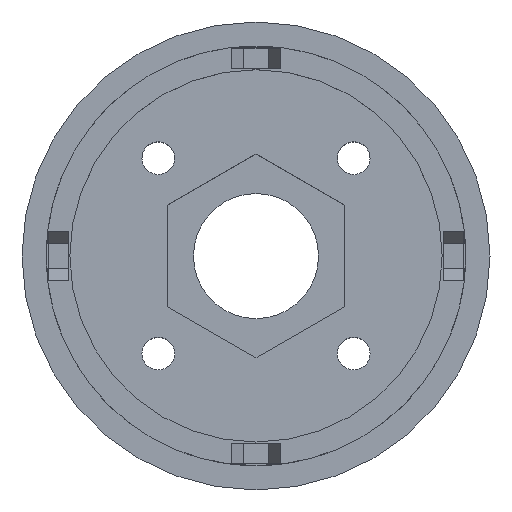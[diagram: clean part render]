
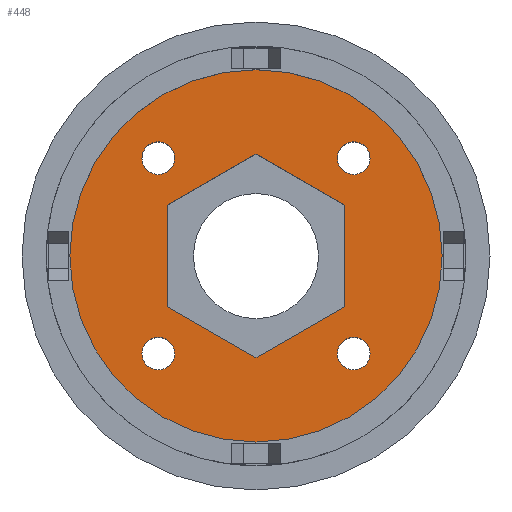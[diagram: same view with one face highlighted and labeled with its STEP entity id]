
A CAD part, top view. The second image highlights one B-rep face of the part: STEP entity #448.
In plain terms, the highlighted planar face has unit normal (0, 0, 1).
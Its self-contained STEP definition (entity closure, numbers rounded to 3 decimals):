
#269 = VERTEX_POINT('',#270);
#270 = CARTESIAN_POINT('',(15.685,-13.435,18.7));
#276 = EDGE_CURVE('',#269,#269,#277,.T.);
#277 = CIRCLE('',#278,2.25);
#278 = AXIS2_PLACEMENT_3D('',#279,#280,#281);
#279 = CARTESIAN_POINT('',(13.435,-13.435,18.7));
#280 = DIRECTION('',(0.,0.,1.));
#281 = DIRECTION('',(1.,0.,0.));
#294 = VERTEX_POINT('',#295);
#295 = CARTESIAN_POINT('',(-11.185,-13.435,18.7));
#301 = EDGE_CURVE('',#294,#294,#302,.T.);
#302 = CIRCLE('',#303,2.25);
#303 = AXIS2_PLACEMENT_3D('',#304,#305,#306);
#304 = CARTESIAN_POINT('',(-13.435,-13.435,18.7));
#305 = DIRECTION('',(0.,0.,1.));
#306 = DIRECTION('',(1.,0.,0.));
#319 = VERTEX_POINT('',#320);
#320 = CARTESIAN_POINT('',(15.685,13.435,18.7));
#326 = EDGE_CURVE('',#319,#319,#327,.T.);
#327 = CIRCLE('',#328,2.25);
#328 = AXIS2_PLACEMENT_3D('',#329,#330,#331);
#329 = CARTESIAN_POINT('',(13.435,13.435,18.7));
#330 = DIRECTION('',(0.,0.,1.));
#331 = DIRECTION('',(1.,0.,0.));
#403 = VERTEX_POINT('',#404);
#404 = CARTESIAN_POINT('',(-11.185,13.435,18.7));
#410 = EDGE_CURVE('',#403,#403,#411,.T.);
#411 = CIRCLE('',#412,2.25);
#412 = AXIS2_PLACEMENT_3D('',#413,#414,#415);
#413 = CARTESIAN_POINT('',(-13.435,13.435,18.7));
#414 = DIRECTION('',(0.,0.,1.));
#415 = DIRECTION('',(1.,0.,0.));
#448 = ADVANCED_FACE('',(#449,#460,#463,#466,#469,#519),#522,.T.);
#449 = FACE_BOUND('',#450,.T.);
#450 = EDGE_LOOP('',(#451));
#451 = ORIENTED_EDGE('',*,*,#452,.T.);
#452 = EDGE_CURVE('',#453,#453,#455,.T.);
#453 = VERTEX_POINT('',#454);
#454 = CARTESIAN_POINT('',(25.6,0.,18.7));
#455 = CIRCLE('',#456,25.6);
#456 = AXIS2_PLACEMENT_3D('',#457,#458,#459);
#457 = CARTESIAN_POINT('',(0.,0.,18.7));
#458 = DIRECTION('',(0.,0.,1.));
#459 = DIRECTION('',(1.,0.,0.));
#460 = FACE_BOUND('',#461,.T.);
#461 = EDGE_LOOP('',(#462));
#462 = ORIENTED_EDGE('',*,*,#301,.F.);
#463 = FACE_BOUND('',#464,.T.);
#464 = EDGE_LOOP('',(#465));
#465 = ORIENTED_EDGE('',*,*,#276,.F.);
#466 = FACE_BOUND('',#467,.T.);
#467 = EDGE_LOOP('',(#468));
#468 = ORIENTED_EDGE('',*,*,#410,.F.);
#469 = FACE_BOUND('',#470,.T.);
#470 = EDGE_LOOP('',(#471,#481,#489,#497,#505,#513));
#471 = ORIENTED_EDGE('',*,*,#472,.F.);
#472 = EDGE_CURVE('',#473,#475,#477,.T.);
#473 = VERTEX_POINT('',#474);
#474 = CARTESIAN_POINT('',(12.125,7.,18.7));
#475 = VERTEX_POINT('',#476);
#476 = CARTESIAN_POINT('',(0.,14.001,18.7));
#477 = LINE('',#478,#479);
#478 = CARTESIAN_POINT('',(9.094,8.75,18.7));
#479 = VECTOR('',#480,1.);
#480 = DIRECTION('',(-0.866,0.5,0.));
#481 = ORIENTED_EDGE('',*,*,#482,.F.);
#482 = EDGE_CURVE('',#483,#473,#485,.T.);
#483 = VERTEX_POINT('',#484);
#484 = CARTESIAN_POINT('',(12.125,-7.,18.7));
#485 = LINE('',#486,#487);
#486 = CARTESIAN_POINT('',(12.125,-3.5,18.7));
#487 = VECTOR('',#488,1.);
#488 = DIRECTION('',(0.,1.,0.));
#489 = ORIENTED_EDGE('',*,*,#490,.F.);
#490 = EDGE_CURVE('',#491,#483,#493,.T.);
#491 = VERTEX_POINT('',#492);
#492 = CARTESIAN_POINT('',(0.,-14.001,18.7));
#493 = LINE('',#494,#495);
#494 = CARTESIAN_POINT('',(3.031,-12.251,18.7));
#495 = VECTOR('',#496,1.);
#496 = DIRECTION('',(0.866,0.5,0.));
#497 = ORIENTED_EDGE('',*,*,#498,.F.);
#498 = EDGE_CURVE('',#499,#491,#501,.T.);
#499 = VERTEX_POINT('',#500);
#500 = CARTESIAN_POINT('',(-12.125,-7.,18.7));
#501 = LINE('',#502,#503);
#502 = CARTESIAN_POINT('',(-9.094,-8.75,18.7));
#503 = VECTOR('',#504,1.);
#504 = DIRECTION('',(0.866,-0.5,0.));
#505 = ORIENTED_EDGE('',*,*,#506,.F.);
#506 = EDGE_CURVE('',#507,#499,#509,.T.);
#507 = VERTEX_POINT('',#508);
#508 = CARTESIAN_POINT('',(-12.125,7.,18.7));
#509 = LINE('',#510,#511);
#510 = CARTESIAN_POINT('',(-12.125,3.5,18.7));
#511 = VECTOR('',#512,1.);
#512 = DIRECTION('',(0.,-1.,0.));
#513 = ORIENTED_EDGE('',*,*,#514,.F.);
#514 = EDGE_CURVE('',#475,#507,#515,.T.);
#515 = LINE('',#516,#517);
#516 = CARTESIAN_POINT('',(-3.031,12.251,18.7));
#517 = VECTOR('',#518,1.);
#518 = DIRECTION('',(-0.866,-0.5,0.));
#519 = FACE_BOUND('',#520,.T.);
#520 = EDGE_LOOP('',(#521));
#521 = ORIENTED_EDGE('',*,*,#326,.F.);
#522 = PLANE('',#523);
#523 = AXIS2_PLACEMENT_3D('',#524,#525,#526);
#524 = CARTESIAN_POINT('',(0.,0.,18.7));
#525 = DIRECTION('',(0.,0.,1.));
#526 = DIRECTION('',(1.,0.,0.));
